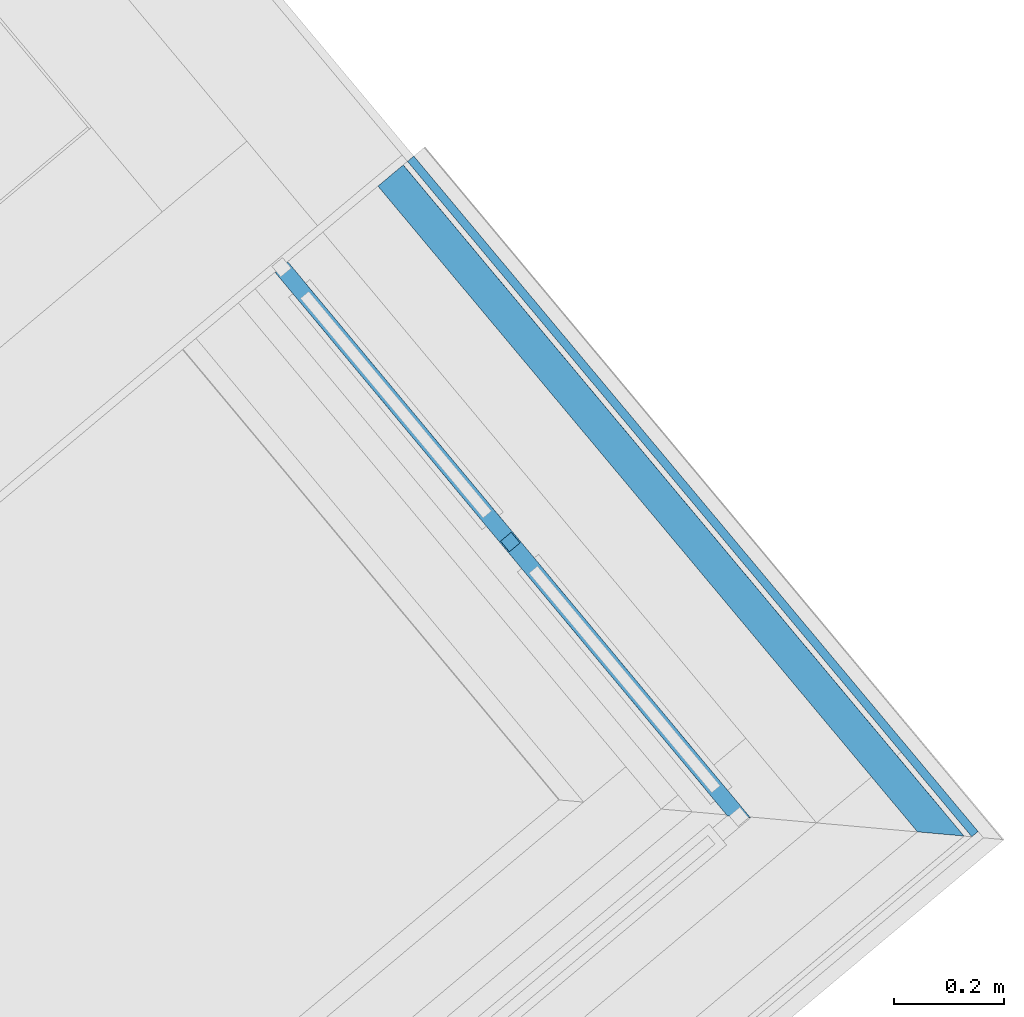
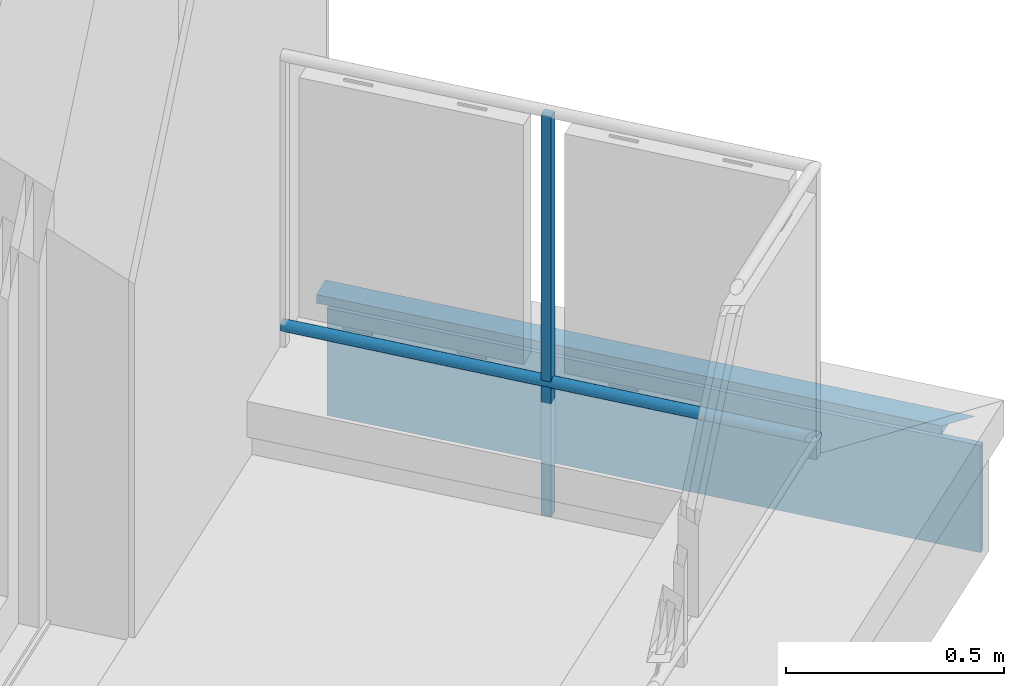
# One storey, part 38 of 50: 4 building element parts, 2 elements without a shape of their own.
"""IFC4 building model written with IfcOpenShell, lengths in metres."""

from ifc_helpers import new_model, entity, si_unit, converted_unit, derived_unit, direction, frame, origin_with_axes, place, context, subcontext, project, spatial, polygons, material, type_object, element, aggregate, save


model = new_model("IFC4")

# Units and contexts
model_context = context("Model", 3, precision=1e-05, world=origin_with_axes(), true_north=direction((0.0, 1.0)))
body_context = subcontext(model_context, "Body", "Model", "MODEL_VIEW")
ifc_project = project(units=[si_unit("LENGTHUNIT", "METRE"), si_unit("AREAUNIT", "SQUARE_METRE"), si_unit("VOLUMEUNIT", "CUBIC_METRE"), converted_unit("PLANEANGLEUNIT", "DEGREE", entity("IfcPlaneAngleMeasure", 0.0174532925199), si_unit("PLANEANGLEUNIT", "RADIAN"), dimensions=[0, 0, 0, 0, 0, 0, 0]), converted_unit("TIMEUNIT", "Year", entity("IfcTimeMeasure", 31556926.0), si_unit("TIMEUNIT", "SECOND"), dimensions=[0, 0, 1, 0, 0, 0, 0]), si_unit("MASSUNIT", "GRAM", prefix="KILO"), si_unit("THERMODYNAMICTEMPERATUREUNIT", "DEGREE_CELSIUS"), si_unit("LUMINOUSINTENSITYUNIT", "LUMEN"), si_unit("ENERGYUNIT", "JOULE", prefix="MEGA"), derived_unit("THERMALCONDUCTANCEUNIT", [(si_unit("POWERUNIT", "WATT"), 1), (si_unit("LENGTHUNIT", "METRE"), -1), (si_unit("THERMODYNAMICTEMPERATUREUNIT", "KELVIN"), -1)]), derived_unit("SPECIFICHEATCAPACITYUNIT", [(si_unit("ENERGYUNIT", "JOULE"), 1), (si_unit("MASSUNIT", "GRAM", prefix="KILO"), -1), (si_unit("THERMODYNAMICTEMPERATUREUNIT", "KELVIN"), -1)]), derived_unit("MASSDENSITYUNIT", [(si_unit("MASSUNIT", "GRAM", prefix="KILO"), 1), (si_unit("VOLUMEUNIT", "CUBIC_METRE"), -1)])], contexts=[model_context])

# Site, building, storey
site_placement = place(None, frame((-0.00153261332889, -0.00661245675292, 0.0), z_axis=(0.0, 0.0, 1.0), x_axis=(1.0, 0.0, 0.0)))
site = spatial("IfcSite", under=ifc_project, at=site_placement, Name="Gelände", CompositionType="ELEMENT")
building_placement = place(site_placement, origin_with_axes())
building = spatial("IfcBuilding", under=site, at=building_placement, Name="Gebäude", CompositionType="ELEMENT")
storey_placement = place(building_placement, frame((0.0, 0.0, 8.66), z_axis=(0.0, 0.0, 1.0), x_axis=(1.0, 0.0, 0.0)))
storey = spatial("IfcBuildingStorey", under=building, at=storey_placement, Name="DG2", CompositionType="ELEMENT", Elevation=8.66)

# Wall, building element parts
wall_type = type_object("IfcWallType", Name="Bauteil - Attika Terrasse 1.DG 574 x 410", PredefinedType="NOTDEFINED")
wall_placement = place(storey_placement, frame((13.0950046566, 20.3058232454, -0.2), z_axis=(0.0, 0.0, 1.0), x_axis=(-0.641209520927, 0.767365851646, 0.0)))
wall = element("IfcWall", 1, at=wall_placement, inside=storey, type_object=wall_type, Name="Wand-005", PredefinedType="NOTDEFINED")
ifc_material_1 = material(Name="Vollholz")
building_element_part_1_placement = place(wall_placement, origin_with_axes())
building_element_part_1 = element("IfcBuildingElementPart", 2, at=building_element_part_1_placement, material=ifc_material_1, Name="Vollholz", PredefinedType="NOTDEFINED", context=body_context, shape_type="Tessellation", body=[
    polygons([(1.39632238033, -0.130124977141, 0.560000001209), (-0.130040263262, -0.130124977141, 0.560000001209), (-0.130040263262, -0.130124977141, 0.567947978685), (-0.130040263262, -0.130124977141, 0.573880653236), (-0.130040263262, -0.130124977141, 0.575979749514), (-0.130040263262, -0.130124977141, 0.584015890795), (1.39632238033, -0.130124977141, 0.584015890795), (1.39632238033, -0.190124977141, 0.560000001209), (-0.130001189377, -0.190124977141, 0.560000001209), (-0.130001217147, -0.190082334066, 0.567947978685), (-0.130001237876, -0.190050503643, 0.573880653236), (-0.130001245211, -0.190039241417, 0.575979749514), (-0.130001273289, -0.189996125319, 0.584015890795), (-0.189861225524, -0.189984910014, 0.586106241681), (1.39632238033, -0.189984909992, 0.586106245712)], [[[1, 2, 3, 4, 5, 6, 7]], [[2, 1, 8, 9]], [[3, 2, 9, 10]], [[4, 3, 10, 11]], [[5, 4, 11, 12]], [[6, 5, 12, 13]], [[7, 6, 14, 15]], [[1, 7, 15, 8]], [[8, 15, 14, 13, 12, 11, 10, 9]], [[6, 13, 14]]], closed=True),
])
ifc_material_2 = material(Name="Zementputz")
building_element_part_2_placement = place(wall_placement, origin_with_axes())
building_element_part_2 = element("IfcBuildingElementPart", 3, at=building_element_part_2_placement, material=ifc_material_2, Name="Zementputz", PredefinedType="NOTDEFINED", context=body_context, shape_type="Tessellation", body=[
    polygons([(-0.199869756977, -0.199999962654, 0.499999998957), (-0.199859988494, -0.214999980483, 0.499999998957), (1.39632238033, -0.214999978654, 0.499999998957), (1.39632238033, -0.199999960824, 0.499999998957), (-0.199859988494, -0.2149999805, 0.498822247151), (-0.199869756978, -0.199999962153, 0.498822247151), (-0.199859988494, -0.2149999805, 0.49100648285), (-0.199859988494, -0.2149999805, 0.488695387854), (-0.199859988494, -0.2149999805, 0.335), (-0.199859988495, -0.214999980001, 0.2), (1.39632238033, -0.214999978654, 0.2), (1.39632238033, -0.199999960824, 0.2), (-0.199869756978, -0.199999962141, 0.2), (-0.199869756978, -0.199999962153, 0.335), (-0.199869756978, -0.199999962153, 0.488695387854), (-0.199869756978, -0.199999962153, 0.49100648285)], [[[1, 2, 3, 4]], [[5, 2, 1, 6]], [[2, 5, 7, 8, 9, 10, 11, 3]], [[3, 11, 12, 4]], [[6, 1, 4, 12, 13, 14, 15, 16]], [[5, 6, 16, 7]], [[7, 16, 15, 8]], [[8, 15, 14, 9]], [[9, 14, 13, 10]], [[10, 13, 12, 11]]], closed=True),
])
aggregate(wall, [building_element_part_1, building_element_part_2])

# Space
space_placement = place(storey_placement, frame((8.90864671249, 17.2360299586, 0.22), z_axis=(0.0, 0.0, 1.0), x_axis=(0.766948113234, 0.641709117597, 0.0)))
space = spatial("IfcSpace", under=storey, at=space_placement, CompositionType="ELEMENT", PredefinedType="NOTDEFINED")

# Railing, building element parts
railing_type = type_object("IfcRailingType", Name="Geländerart", PredefinedType="NOTDEFINED")
railing_placement = place(space_placement, frame((-0.182063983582, 1.04564583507, 0.16), z_axis=(0.0, 0.0, 1.0), x_axis=(0.766948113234, -0.641709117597, 0.0)))
railing = element("IfcRailing", 4, at=railing_placement, inside=space, type_object=railing_type, Name="Geländer - 001", PredefinedType="NOTDEFINED")
ifc_material_3 = material(Name="Aluminium")
building_element_part_3_placement = place(railing_placement, origin_with_axes())
building_element_part_3 = element("IfcBuildingElementPart", 5, at=building_element_part_3_placement, material=ifc_material_3, Name="Aluminium", PredefinedType="NOTDEFINED", context=body_context, shape_type="Tessellation", body=[
    polygons([(4.83521161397, 2.39762838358, 0.07), (4.83553217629, 2.39759944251, 0.072604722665), (4.01550322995, 3.38294229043, 0.072604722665), (4.01532806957, 3.38279651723, 0.07), (4.83553217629, 2.39759944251, 0.067395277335), (4.83648412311, 2.39751349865, 0.0648696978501), (4.83803853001, 2.39737316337, 0.0625), (4.84014816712, 2.39718270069, 0.0603581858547), (4.84274893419, 2.3969478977, 0.0585093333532), (4.84576180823, 2.3966758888, 0.0570096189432), (4.84909524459, 2.39637493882, 0.0559046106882), (4.85264795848, 2.39605419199, 0.0552278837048), (4.85631200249, 2.39572339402, 0.055), (4.85997604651, 2.39539259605, 0.0552278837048), (4.8635287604, 2.39507184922, 0.0559046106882), (4.86686219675, 2.39477089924, 0.0570096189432), (4.86987507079, 2.39449889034, 0.0585093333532), (4.87247583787, 2.39426408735, 0.0603581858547), (4.87458547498, 2.39407362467, 0.0625), (4.87613988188, 2.39393328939, 0.0648696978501), (4.8770918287, 2.39384734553, 0.067395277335), (4.87741239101, 2.39381840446, 0.07), (4.8770918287, 2.39384734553, 0.072604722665), (4.87613988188, 2.39393328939, 0.0751303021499), (4.87458547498, 2.39407362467, 0.0775), (4.87247583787, 2.39426408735, 0.0796418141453), (4.86987507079, 2.39449889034, 0.0814906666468), (4.86686219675, 2.39477089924, 0.0829903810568), (4.8635287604, 2.39507184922, 0.0840953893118), (4.85997604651, 2.39539259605, 0.0847721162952), (4.85631200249, 2.39572339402, 0.085), (4.85264795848, 2.39605419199, 0.0847721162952), (4.84909524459, 2.39637493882, 0.0840953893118), (4.84576180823, 2.3966758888, 0.0829903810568), (4.84274893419, 2.3969478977, 0.0814906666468), (4.84014816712, 2.39718270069, 0.0796418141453), (4.83803853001, 2.39737316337, 0.0775), (4.83648412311, 2.39751349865, 0.0751303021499), (4.01602338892, 3.38337518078, 0.0751303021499), (4.01687274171, 3.38408203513, 0.0775), (4.01802548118, 3.38504137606, 0.0796418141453), (4.01944658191, 3.3862240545, 0.0814906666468), (4.02109286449, 3.38759413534, 0.0829903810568), (4.02291430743, 3.38910998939, 0.0840953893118), (4.02485556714, 3.39072555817, 0.0847721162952), (4.0268576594, 3.39239175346, 0.085), (4.02885975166, 3.39405794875, 0.0847721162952), (4.03080101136, 3.39567351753, 0.0840953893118), (4.03262245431, 3.39718937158, 0.0829903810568), (4.03426873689, 3.39855945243, 0.0814906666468), (4.03568983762, 3.39974213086, 0.0796418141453), (4.03684257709, 3.4007014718, 0.0775), (4.03769192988, 3.40140832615, 0.0751303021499), (4.03821208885, 3.4018412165, 0.072604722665), (4.03838724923, 3.4019869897, 0.07), (4.03821208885, 3.4018412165, 0.067395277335), (4.03769192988, 3.40140832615, 0.0648696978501), (4.03684257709, 3.4007014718, 0.0625), (4.03568983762, 3.39974213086, 0.0603581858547), (4.03426873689, 3.39855945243, 0.0585093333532), (4.03262245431, 3.39718937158, 0.0570096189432), (4.03080101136, 3.39567351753, 0.0559046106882), (4.02885975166, 3.39405794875, 0.0552278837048), (4.0268576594, 3.39239175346, 0.055), (4.02485556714, 3.39072555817, 0.0552278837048), (4.02291430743, 3.38910998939, 0.0559046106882), (4.02109286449, 3.38759413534, 0.0570096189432), (4.01944658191, 3.3862240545, 0.0585093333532), (4.01802548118, 3.38504137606, 0.0603581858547), (4.01687274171, 3.38408203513, 0.0625), (4.01602338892, 3.38337518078, 0.0648696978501), (4.01550322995, 3.38294229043, 0.067395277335)], [[[1, 2, 3, 4]], [[1, 5, 6, 7, 8, 9, 10, 11, 12, 13, 14, 15, 16, 17, 18, 19, 20, 21, 22, 23, 24, 25, 26, 27, 28, 29, 30, 31, 32, 33, 34, 35, 36, 37, 38, 2]], [[2, 38, 39, 3]], [[4, 3, 39, 40, 41, 42, 43, 44, 45, 46, 47, 48, 49, 50, 51, 52, 53, 54, 55, 56, 57, 58, 59, 60, 61, 62, 63, 64, 65, 66, 67, 68, 69, 70, 71, 72]], [[5, 1, 4, 72]], [[6, 5, 72, 71]], [[7, 6, 71, 70]], [[8, 7, 70, 69]], [[9, 8, 69, 68]], [[10, 9, 68, 67]], [[11, 10, 67, 66]], [[12, 11, 66, 65]], [[13, 12, 65, 64]], [[14, 13, 64, 63]], [[15, 14, 63, 62]], [[16, 15, 62, 61]], [[17, 16, 61, 60]], [[18, 17, 60, 59]], [[19, 18, 59, 58]], [[20, 19, 58, 57]], [[21, 20, 57, 56]], [[22, 21, 56, 55]], [[23, 22, 55, 54]], [[24, 23, 54, 53]], [[25, 24, 53, 52]], [[26, 25, 52, 51]], [[27, 26, 51, 50]], [[28, 27, 50, 49]], [[29, 28, 49, 48]], [[30, 29, 48, 47]], [[31, 30, 47, 46]], [[32, 31, 46, 45]], [[33, 32, 45, 44]], [[34, 33, 44, 43]], [[35, 34, 43, 42]], [[36, 35, 42, 41]], [[37, 36, 41, 40]], [[38, 37, 40, 39]]], closed=True),
])
building_element_part_4_placement = place(railing_placement, origin_with_axes())
building_element_part_4 = element("IfcBuildingElementPart", 6, at=building_element_part_4_placement, material=ifc_material_3, Name="Aluminium", PredefinedType="NOTDEFINED", context=body_context, shape_type="Tessellation", body=[
    polygons([(4.44319679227, 2.91166159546, -0.3), (4.42398080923, 2.89566953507, -0.3), (4.42398080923, 2.89566953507, 0.82), (4.44319679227, 2.91166159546, 0.82), (4.45918885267, 2.89244561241, -0.3), (4.43997286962, 2.87645355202, -0.3), (4.43997286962, 2.87645355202, 0.82), (4.45918885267, 2.89244561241, 0.82)], [[[1, 2, 3, 4]], [[1, 5, 6, 2]], [[2, 6, 7, 3]], [[4, 3, 7, 8]], [[5, 1, 4, 8]], [[6, 5, 8, 7]]], closed=True),
])
aggregate(railing, [building_element_part_3, building_element_part_4])

save(model, "model.ifc")
